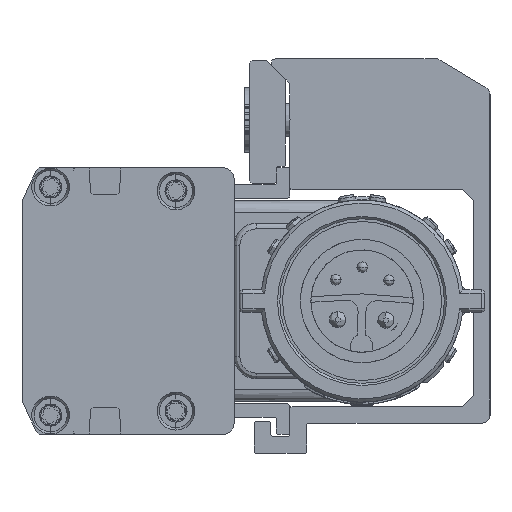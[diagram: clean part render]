
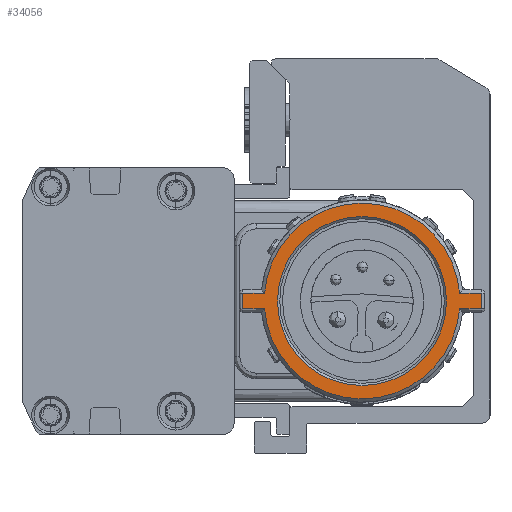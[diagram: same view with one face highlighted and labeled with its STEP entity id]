
A CAD part, left-side view. The second image highlights one B-rep face of the part: STEP entity #34056.
In plain terms, the highlighted planar face has unit normal (-1, 0, 0).
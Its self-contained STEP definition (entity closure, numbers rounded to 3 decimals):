
#240 = DIRECTION ( 'NONE',  ( -1., 0., 0. ) ) ;
#1805 = CARTESIAN_POINT ( 'NONE',  ( 0., -10.74, -0.7 ) ) ;
#3348 = VERTEX_POINT ( 'NONE', #30993 ) ;
#5555 = DIRECTION ( 'NONE',  ( 0., -1., 0. ) ) ;
#5944 = ORIENTED_EDGE ( 'NONE', *, *, #80411, .F. ) ;
#7389 = CARTESIAN_POINT ( 'NONE',  ( 0., -3.795, 6.582 ) ) ;
#10190 = DIRECTION ( 'NONE',  ( 0., 0., -1. ) ) ;
#12221 = CIRCLE ( 'NONE', #79907, 8.8 ) ;
#12461 = FACE_BOUND ( 'NONE', #41976, .T. ) ;
#12793 = LINE ( 'NONE', #70781, #25207 ) ;
#13889 = AXIS2_PLACEMENT_3D ( 'NONE', #58235, #37861, #25314 ) ;
#17033 = LINE ( 'NONE', #62084, #75963 ) ;
#17940 = CARTESIAN_POINT ( 'NONE',  ( 0., 10.75, -0.7 ) ) ;
#18433 = ORIENTED_EDGE ( 'NONE', *, *, #51890, .F. ) ;
#18676 = VECTOR ( 'NONE', #46862, 1000. ) ;
#21299 = DIRECTION ( 'NONE',  ( 0., -1., 0. ) ) ;
#21300 = CARTESIAN_POINT ( 'NONE',  ( 0., 8.777, -0.7 ) ) ;
#25141 = CARTESIAN_POINT ( 'NONE',  ( 0., 8.777, 0.7 ) ) ;
#25207 = VECTOR ( 'NONE', #58273, 1000. ) ;
#25314 = DIRECTION ( 'NONE',  ( 0., -0.5, 0.866 ) ) ;
#26309 = CIRCLE ( 'NONE', #13889, 7.6 ) ;
#26519 = DIRECTION ( 'NONE',  ( 0., 0.5, -0.866 ) ) ;
#27805 = EDGE_CURVE ( 'NONE', #70934, #84943, #29169, .T. ) ;
#28811 = EDGE_CURVE ( 'NONE', #72403, #40682, #12793, .T. ) ;
#29169 = CIRCLE ( 'NONE', #58173, 7.6 ) ;
#30168 = DIRECTION ( 'NONE',  ( 1., 0., 0. ) ) ;
#30466 = ORIENTED_EDGE ( 'NONE', *, *, #28811, .F. ) ;
#30953 = CARTESIAN_POINT ( 'NONE',  ( 0., -10.74, 0.7 ) ) ;
#30993 = CARTESIAN_POINT ( 'NONE',  ( 0., -8.767, 0.7 ) ) ;
#31009 = CARTESIAN_POINT ( 'NONE',  ( 0., 8.777, -0.7 ) ) ;
#34056 = ADVANCED_FACE ( 'NONE', ( #12461, #45352 ), #52274, .F. ) ;
#34085 = DIRECTION ( 'NONE',  ( 0., 0.5, -0.866 ) ) ;
#34829 = CARTESIAN_POINT ( 'NONE',  ( 0., -10.74, -0.7 ) ) ;
#35018 = LINE ( 'NONE', #1805, #74007 ) ;
#35654 = DIRECTION ( 'NONE',  ( 0., -1., 0. ) ) ;
#35885 = EDGE_CURVE ( 'NONE', #70008, #64392, #35018, .T. ) ;
#37748 = EDGE_LOOP ( 'NONE', ( #5944, #81959, #30466, #39984, #60277, #67392, #70838, #40468 ) ) ;
#37861 = DIRECTION ( 'NONE',  ( -1., 0., 0. ) ) ;
#39984 = ORIENTED_EDGE ( 'NONE', *, *, #42193, .F. ) ;
#40468 = ORIENTED_EDGE ( 'NONE', *, *, #70623, .F. ) ;
#40682 = VERTEX_POINT ( 'NONE', #51380 ) ;
#41976 = EDGE_LOOP ( 'NONE', ( #18433, #83178 ) ) ;
#42193 = EDGE_CURVE ( 'NONE', #43063, #72403, #80135, .T. ) ;
#42671 = CARTESIAN_POINT ( 'NONE',  ( 0., -10.74, 0.7 ) ) ;
#43063 = VERTEX_POINT ( 'NONE', #31009 ) ;
#44032 = CARTESIAN_POINT ( 'NONE',  ( 0., 0.005, 0. ) ) ;
#45352 = FACE_OUTER_BOUND ( 'NONE', #37748, .T. ) ;
#46862 = DIRECTION ( 'NONE',  ( 0., 1., 0. ) ) ;
#47098 = DIRECTION ( 'NONE',  ( 1., 0., 0. ) ) ;
#50528 = CIRCLE ( 'NONE', #58832, 8.8 ) ;
#51380 = CARTESIAN_POINT ( 'NONE',  ( 0., 10.75, 0.7 ) ) ;
#51865 = VERTEX_POINT ( 'NONE', #30953 ) ;
#51890 = EDGE_CURVE ( 'NONE', #84943, #70934, #26309, .T. ) ;
#52274 = PLANE ( 'NONE',  #64650 ) ;
#53602 = CARTESIAN_POINT ( 'NONE',  ( 0., 0.005, 0. ) ) ;
#58173 = AXIS2_PLACEMENT_3D ( 'NONE', #59407, #240, #26519 ) ;
#58235 = CARTESIAN_POINT ( 'NONE',  ( 0., 0.005, 0. ) ) ;
#58273 = DIRECTION ( 'NONE',  ( 0., 0., 1. ) ) ;
#58310 = DIRECTION ( 'NONE',  ( 0., -0.5, 0.866 ) ) ;
#58832 = AXIS2_PLACEMENT_3D ( 'NONE', #53602, #47098, #34085 ) ;
#59178 = DIRECTION ( 'NONE',  ( 1., 0., 0. ) ) ;
#59211 = EDGE_CURVE ( 'NONE', #64392, #43063, #50528, .T. ) ;
#59407 = CARTESIAN_POINT ( 'NONE',  ( 0., 0.005, 0. ) ) ;
#59730 = DIRECTION ( 'NONE',  ( 0., 1., 0. ) ) ;
#60277 = ORIENTED_EDGE ( 'NONE', *, *, #59211, .F. ) ;
#61131 = LINE ( 'NONE', #80549, #84967 ) ;
#61460 = CARTESIAN_POINT ( 'NONE',  ( 0., -8.767, -0.7 ) ) ;
#62084 = CARTESIAN_POINT ( 'NONE',  ( 0., 10.75, 0.7 ) ) ;
#64023 = EDGE_CURVE ( 'NONE', #40682, #74355, #17033, .T. ) ;
#64392 = VERTEX_POINT ( 'NONE', #61460 ) ;
#64650 = AXIS2_PLACEMENT_3D ( 'NONE', #64841, #59178, #5555 ) ;
#64841 = CARTESIAN_POINT ( 'NONE',  ( 0., 0.005, 0. ) ) ;
#67392 = ORIENTED_EDGE ( 'NONE', *, *, #35885, .F. ) ;
#70008 = VERTEX_POINT ( 'NONE', #34829 ) ;
#70623 = EDGE_CURVE ( 'NONE', #3348, #51865, #61131, .T. ) ;
#70781 = CARTESIAN_POINT ( 'NONE',  ( 0., 10.75, -0.7 ) ) ;
#70838 = ORIENTED_EDGE ( 'NONE', *, *, #77063, .F. ) ;
#70934 = VERTEX_POINT ( 'NONE', #73973 ) ;
#72403 = VERTEX_POINT ( 'NONE', #17940 ) ;
#73973 = CARTESIAN_POINT ( 'NONE',  ( 0., 3.805, -6.582 ) ) ;
#74007 = VECTOR ( 'NONE', #59730, 1000. ) ;
#74355 = VERTEX_POINT ( 'NONE', #25141 ) ;
#75963 = VECTOR ( 'NONE', #35654, 1000. ) ;
#77063 = EDGE_CURVE ( 'NONE', #51865, #70008, #83293, .T. ) ;
#79907 = AXIS2_PLACEMENT_3D ( 'NONE', #44032, #30168, #58310 ) ;
#80135 = LINE ( 'NONE', #21300, #18676 ) ;
#80411 = EDGE_CURVE ( 'NONE', #74355, #3348, #12221, .T. ) ;
#80549 = CARTESIAN_POINT ( 'NONE',  ( 0., -8.767, 0.7 ) ) ;
#81959 = ORIENTED_EDGE ( 'NONE', *, *, #64023, .F. ) ;
#82835 = VECTOR ( 'NONE', #10190, 1000. ) ;
#83178 = ORIENTED_EDGE ( 'NONE', *, *, #27805, .F. ) ;
#83293 = LINE ( 'NONE', #42671, #82835 ) ;
#84943 = VERTEX_POINT ( 'NONE', #7389 ) ;
#84967 = VECTOR ( 'NONE', #21299, 1000. ) ;
